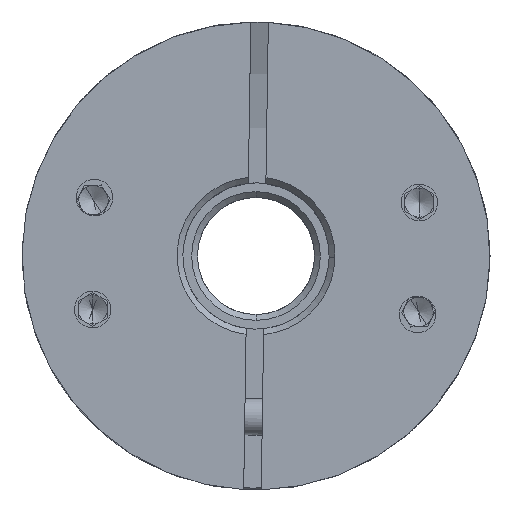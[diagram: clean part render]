
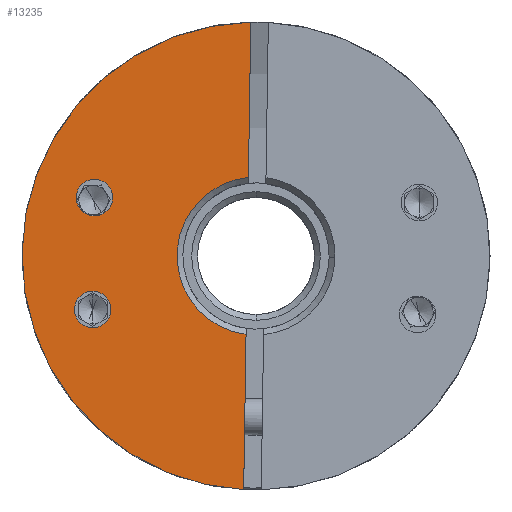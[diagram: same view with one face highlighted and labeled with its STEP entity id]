
A CAD part, front view. The second image highlights one B-rep face of the part: STEP entity #13235.
In plain terms, the highlighted planar face has unit normal (0, -1, 0).
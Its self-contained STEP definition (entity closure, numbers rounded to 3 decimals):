
#343 = CARTESIAN_POINT ( 'NONE',  ( -59.86, -19.411, -5.357 ) ) ;
#371 = VERTEX_POINT ( 'NONE', #3912 ) ;
#475 = ORIENTED_EDGE ( 'NONE', *, *, #12424, .T. ) ;
#1154 = CIRCLE ( 'NONE', #9159, 1.25 ) ;
#1300 = DIRECTION ( 'NONE',  ( 1., 0., -0.015 ) ) ;
#1308 = LINE ( 'NONE', #9405, #17724 ) ;
#1905 = DIRECTION ( 'NONE',  ( -0.015, 0., -1. ) ) ;
#2009 = DIRECTION ( 'NONE',  ( 0., 1., 0. ) ) ;
#2351 = CIRCLE ( 'NONE', #16769, 1.25 ) ;
#2668 = VERTEX_POINT ( 'NONE', #17414 ) ;
#2912 = EDGE_CURVE ( 'NONE', #22683, #13359, #2351, .T. ) ;
#3357 = DIRECTION ( 'NONE',  ( 0., -1., 0. ) ) ;
#3587 = EDGE_CURVE ( 'NONE', #10710, #7182, #5811, .T. ) ;
#3882 = FACE_BOUND ( 'NONE', #16113, .T. ) ;
#3912 = CARTESIAN_POINT ( 'NONE',  ( -71.479, -19.411, 4.013 ) ) ;
#3964 = EDGE_CURVE ( 'NONE', #13359, #22683, #19877, .T. ) ;
#4223 = ORIENTED_EDGE ( 'NONE', *, *, #3964, .T. ) ;
#4763 = CIRCLE ( 'NONE', #20739, 16. ) ;
#4819 = CARTESIAN_POINT ( 'NONE',  ( -59.535, -19.411, 15.996 ) ) ;
#4841 = VERTEX_POINT ( 'NONE', #7339 ) ;
#5021 = CARTESIAN_POINT ( 'NONE',  ( -59.178, -19.411, 0. ) ) ;
#5662 = CARTESIAN_POINT ( 'NONE',  ( -70.345, -19.411, -3.656 ) ) ;
#5811 = LINE ( 'NONE', #19626, #17548 ) ;
#5817 = EDGE_CURVE ( 'NONE', #12780, #2668, #1308, .T. ) ;
#6328 = AXIS2_PLACEMENT_3D ( 'NONE', #16542, #20131, #22160 ) ;
#6605 = CIRCLE ( 'NONE', #8583, 5.4 ) ;
#6626 = DIRECTION ( 'NONE',  ( 0., 1., 0. ) ) ;
#6869 = ORIENTED_EDGE ( 'NONE', *, *, #2912, .T. ) ;
#7182 = VERTEX_POINT ( 'NONE', #22633 ) ;
#7339 = CARTESIAN_POINT ( 'NONE',  ( -75.176, -19.411, 0.243 ) ) ;
#7555 = AXIS2_PLACEMENT_3D ( 'NONE', #22667, #17107, #9237 ) ;
#8583 = AXIS2_PLACEMENT_3D ( 'NONE', #5021, #16441, #1300 ) ;
#8968 = DIRECTION ( 'NONE',  ( 1., 0., -0.015 ) ) ;
#9050 = ORIENTED_EDGE ( 'NONE', *, *, #11063, .T. ) ;
#9159 = AXIS2_PLACEMENT_3D ( 'NONE', #21544, #6626, #12201 ) ;
#9212 = ORIENTED_EDGE ( 'NONE', *, *, #22726, .T. ) ;
#9237 = DIRECTION ( 'NONE',  ( 1., 0., -0.015 ) ) ;
#9405 = CARTESIAN_POINT ( 'NONE',  ( -59.687, -19.411, 6.008 ) ) ;
#9544 = PLANE ( 'NONE',  #7555 ) ;
#10710 = VERTEX_POINT ( 'NONE', #343 ) ;
#11063 = EDGE_CURVE ( 'NONE', #10710, #2668, #6605, .T. ) ;
#11098 = ORIENTED_EDGE ( 'NONE', *, *, #23002, .T. ) ;
#12169 = VERTEX_POINT ( 'NONE', #21133 ) ;
#12201 = DIRECTION ( 'NONE',  ( 1., 0., -0.015 ) ) ;
#12338 = DIRECTION ( 'NONE',  ( 1., 0., -0.015 ) ) ;
#12424 = EDGE_CURVE ( 'NONE', #4841, #7182, #4763, .T. ) ;
#12780 = VERTEX_POINT ( 'NONE', #4819 ) ;
#13026 = DIRECTION ( 'NONE',  ( 1., 0., -0.015 ) ) ;
#13106 = DIRECTION ( 'NONE',  ( 0., 1., 0. ) ) ;
#13235 = ADVANCED_FACE ( 'NONE', ( #18813, #13810, #3882 ), #9544, .T. ) ;
#13359 = VERTEX_POINT ( 'NONE', #17416 ) ;
#13398 = AXIS2_PLACEMENT_3D ( 'NONE', #22078, #3357, #8968 ) ;
#13810 = FACE_BOUND ( 'NONE', #15972, .T. ) ;
#14727 = CARTESIAN_POINT ( 'NONE',  ( -69.095, -19.411, -3.675 ) ) ;
#15216 = CIRCLE ( 'NONE', #6328, 1.25 ) ;
#15774 = DIRECTION ( 'NONE',  ( -0.015, 0., -1. ) ) ;
#15972 = EDGE_LOOP ( 'NONE', ( #23554, #11098 ) ) ;
#16113 = EDGE_LOOP ( 'NONE', ( #4223, #6869 ) ) ;
#16229 = CARTESIAN_POINT ( 'NONE',  ( -59.178, -19.411, 0. ) ) ;
#16441 = DIRECTION ( 'NONE',  ( 0., 1., 0. ) ) ;
#16542 = CARTESIAN_POINT ( 'NONE',  ( -70.229, -19.411, 3.994 ) ) ;
#16758 = CARTESIAN_POINT ( 'NONE',  ( -70.345, -19.411, -3.656 ) ) ;
#16769 = AXIS2_PLACEMENT_3D ( 'NONE', #16758, #2009, #20510 ) ;
#17107 = DIRECTION ( 'NONE',  ( 0., -1., 0. ) ) ;
#17414 = CARTESIAN_POINT ( 'NONE',  ( -59.697, -19.411, 5.375 ) ) ;
#17416 = CARTESIAN_POINT ( 'NONE',  ( -71.595, -19.411, -3.637 ) ) ;
#17548 = VECTOR ( 'NONE', #15774, 1000. ) ;
#17724 = VECTOR ( 'NONE', #1905, 1000. ) ;
#17921 = ORIENTED_EDGE ( 'NONE', *, *, #3587, .F. ) ;
#18465 = CIRCLE ( 'NONE', #13398, 16. ) ;
#18813 = FACE_OUTER_BOUND ( 'NONE', #22113, .T. ) ;
#19626 = CARTESIAN_POINT ( 'NONE',  ( -59.687, -19.411, 6.008 ) ) ;
#19823 = DIRECTION ( 'NONE',  ( 0., -1., 0. ) ) ;
#19877 = CIRCLE ( 'NONE', #22412, 1.25 ) ;
#20131 = DIRECTION ( 'NONE',  ( 0., 1., 0. ) ) ;
#20510 = DIRECTION ( 'NONE',  ( 1., 0., -0.015 ) ) ;
#20739 = AXIS2_PLACEMENT_3D ( 'NONE', #16229, #19823, #12338 ) ;
#21115 = ORIENTED_EDGE ( 'NONE', *, *, #5817, .F. ) ;
#21133 = CARTESIAN_POINT ( 'NONE',  ( -68.979, -19.411, 3.975 ) ) ;
#21544 = CARTESIAN_POINT ( 'NONE',  ( -70.229, -19.411, 3.994 ) ) ;
#22078 = CARTESIAN_POINT ( 'NONE',  ( -59.178, -19.411, 0. ) ) ;
#22113 = EDGE_LOOP ( 'NONE', ( #17921, #9050, #21115, #9212, #475 ) ) ;
#22160 = DIRECTION ( 'NONE',  ( 1., 0., -0.015 ) ) ;
#22412 = AXIS2_PLACEMENT_3D ( 'NONE', #5662, #13106, #13026 ) ;
#22633 = CARTESIAN_POINT ( 'NONE',  ( -60.021, -19.411, -15.978 ) ) ;
#22667 = CARTESIAN_POINT ( 'NONE',  ( -59.178, -19.411, 0. ) ) ;
#22683 = VERTEX_POINT ( 'NONE', #14727 ) ;
#22726 = EDGE_CURVE ( 'NONE', #12780, #4841, #18465, .T. ) ;
#22730 = EDGE_CURVE ( 'NONE', #371, #12169, #15216, .T. ) ;
#23002 = EDGE_CURVE ( 'NONE', #12169, #371, #1154, .T. ) ;
#23554 = ORIENTED_EDGE ( 'NONE', *, *, #22730, .T. ) ;
